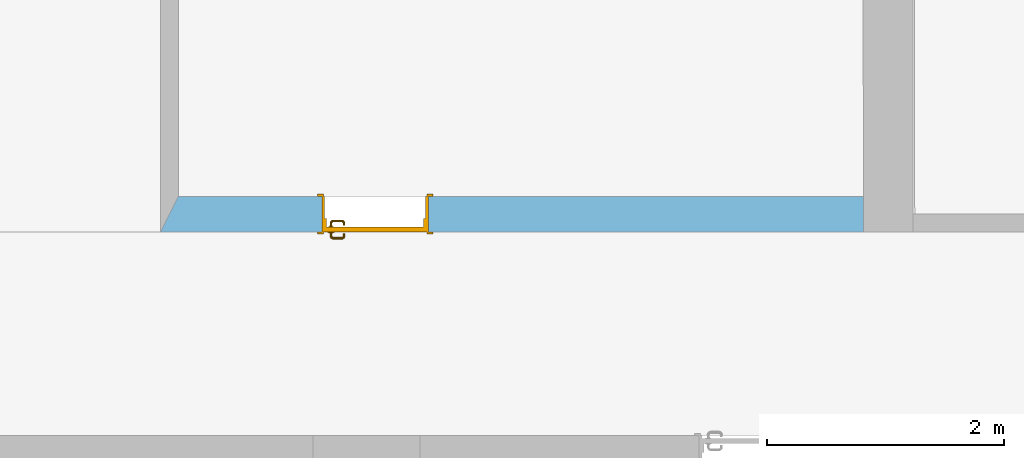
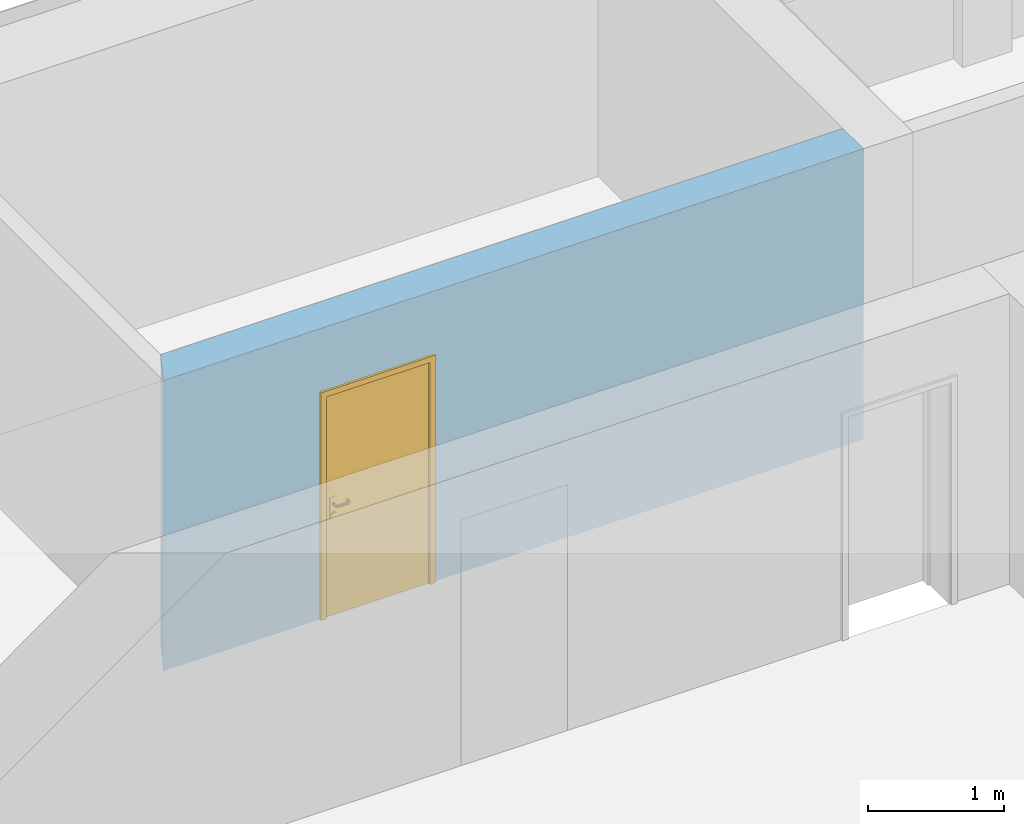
# One storey, part 56 of 127: 1 door, 2 openings, plus 1 element that does not belong to this part.
"""IFC2X3 building model written with IfcOpenShell, lengths in millimetres."""

import ifcopenshell
import ifcopenshell.guid

model = None  # the IFC model being written
_history = None  # IfcOwnerHistory: only IFC2X3 demands one
_inside = {}  # id of a spatial element -> (the spatial element, [elements in it])
_under = {}  # id of a project, library or spatial element -> (it, [spatial elements below it])
_declared = {}  # id of a project -> (the project, [libraries it declares])
_typed = {}  # id of a type object -> (the type object, [elements of that type])
_made_of = {}  # id of a material, layer set ... -> (it, [elements and type objects made of it])


def new_model(schema):
    """Start an empty IFC model of exactly this schema.

    Asked for "IFC4X3", IfcOpenShell would pick the latest addendum, in which some entities
    have other attributes; the version numbers below select the first issue.
    IFC2X3 requires an IfcOwnerHistory on every rooted entity: one is made here for all.
    """
    global model, _history
    if schema == "IFC4X3":
        model = ifcopenshell.file(schema_version=(4, 3, 0, 0))
    else:
        model = ifcopenshell.file(schema=schema)
    _inside.clear()
    _under.clear()
    _declared.clear()
    _typed.clear()
    _made_of.clear()
    _history = None
    if model.schema == "IFC2X3":
        org = make("IfcOrganization", Name="unknown")
        user = make(
            "IfcPersonAndOrganization",
            ThePerson=make("IfcPerson", FamilyName="unknown"),
            TheOrganization=org,
        )
        app = make(
            "IfcApplication",
            ApplicationDeveloper=org,
            Version="unknown",
            ApplicationFullName="unknown",
            ApplicationIdentifier="unknown",
        )
        _history = make(
            "IfcOwnerHistory",
            OwningUser=user,
            OwningApplication=app,
            ChangeAction="ADDED",
            CreationDate=0,
        )
    return model


def make(cls, **values):
    """One entity of the class cls with the attributes given. An attribute that is None is left unset."""
    return model.create_entity(
        cls, **{name: value for name, value in values.items() if value is not None}
    )


def entity(cls, *values):
    """Any entity or typed value of the class cls, its attributes in the order of the schema. None: left unset."""
    e = model.create_entity(cls)
    for i, value in enumerate(values):
        if value is not None:
            e[i] = value
    return e


def rooted(cls, **values):
    """An entity with a GlobalId (a new one), such as an element, a storey or a relation."""
    return make(cls, GlobalId=ifcopenshell.guid.new(), OwnerHistory=_history, **values)


def si_unit(unit_type, name, prefix=None):
    """IfcSIUnit, for example si_unit("LENGTHUNIT", "METRE", prefix="MILLI")."""
    return make("IfcSIUnit", UnitType=unit_type, Prefix=prefix, Name=name)


def converted_unit(unit_type, name, factor, base, dimensions=None, offset=None):
    """IfcConversionBasedUnit, such as the inch: factor (a typed value) times the base unit."""
    return make(
        "IfcConversionBasedUnit"
        if offset is None
        else "IfcConversionBasedUnitWithOffset",
        ConversionOffset=offset,
        Dimensions=None
        if dimensions is None
        else entity("IfcDimensionalExponents", *dimensions),
        UnitType=unit_type,
        Name=name,
        ConversionFactor=make(
            "IfcMeasureWithUnit", ValueComponent=factor, UnitComponent=base
        ),
    )


def derived_unit(unit_type, elements):
    """IfcDerivedUnit: a product of units, each with its exponent."""
    return make(
        "IfcDerivedUnit",
        Elements=[
            make("IfcDerivedUnitElement", Unit=unit, Exponent=power)
            for unit, power in elements
        ],
        UnitType=unit_type,
    )


def money_unit(currency):
    """IfcMonetaryUnit."""
    return make("IfcMonetaryUnit", Currency=currency)


def assignment(units):
    """IfcUnitAssignment: the units of a project."""
    return None if units is None else make("IfcUnitAssignment", Units=units)


def point(xyz):
    """IfcCartesianPoint."""
    return None if xyz is None else make("IfcCartesianPoint", Coordinates=xyz)


def direction(xyz):
    """IfcDirection."""
    return None if xyz is None else make("IfcDirection", DirectionRatios=xyz)


def frame(location, z_axis=None, x_axis=None):
    """IfcAxis2Placement3D, a coordinate frame: its origin and axes. An axis left out is left unset."""
    return make(
        "IfcAxis2Placement3D",
        Location=point(location),
        Axis=direction(z_axis),
        RefDirection=direction(x_axis),
    )


def frame_2d(location, x_axis=None):
    """IfcAxis2Placement2D, a coordinate frame in the plane: its origin and x axis."""
    return make(
        "IfcAxis2Placement2D", Location=point(location), RefDirection=direction(x_axis)
    )


def origin_with_axes():
    """The frame at (0, 0, 0) with the z axis (0, 0, 1) and the x axis (1, 0, 0) written out."""
    return frame((0.0, 0.0, 0.0), z_axis=(0.0, 0.0, 1.0), x_axis=(1.0, 0.0, 0.0))


def origin_2d_with_axis():
    """The frame at (0, 0) in the plane with the x axis (1, 0) written out."""
    return frame_2d((0.0, 0.0), x_axis=(1.0, 0.0))


def place(relative_to, where):
    """IfcLocalPlacement: puts the frame where relative to a parent placement (None: the world)."""
    return make(
        "IfcLocalPlacement", PlacementRelTo=relative_to, RelativePlacement=where
    )


def context(
    kind, dimensions, precision=None, world=None, true_north=None, identifier=None
):
    """IfcGeometricRepresentationContext, for example the 3D "Model" context."""
    return make(
        "IfcGeometricRepresentationContext",
        ContextIdentifier=identifier,
        ContextType=kind,
        CoordinateSpaceDimension=dimensions,
        Precision=precision,
        WorldCoordinateSystem=world,
        TrueNorth=true_north,
    )


def subcontext(parent, identifier, kind, view, scale=None):
    """IfcGeometricRepresentationSubContext, for example "Body" below "Model"."""
    return make(
        "IfcGeometricRepresentationSubContext",
        ContextIdentifier=identifier,
        ContextType=kind,
        ParentContext=parent,
        TargetScale=scale,
        TargetView=view,
    )


def project(units=None, contexts=None):
    """IfcProject with its units and contexts."""
    return rooted(
        "IfcProject",
        Name="project",
        RepresentationContexts=contexts,
        UnitsInContext=assignment(units),
    )


def spatial(cls, under=None, at=None, **own):
    """A site, building, storey or space (cls), placed at a placement, below another one or the project."""
    s = rooted(cls, ObjectPlacement=at, **own)
    if under is not None:
        _under.setdefault(under.id(), (under, []))[1].append(s)
    return s


def polyline(points):
    """IfcPolyline through the points."""
    return make("IfcPolyline", Points=[point(p) for p in points])


def profile(cls, at=None, kind="AREA", **sizes):
    """A parametric profile (cls). Its sizes go by their IFC names, for example OverallWidth=200.0."""
    return make(cls, ProfileType=kind, Position=at, **sizes)


def rectangle(**sizes):
    """IfcRectangleProfileDef."""
    return profile("IfcRectangleProfileDef", **sizes)


def outline(outer, holes=None, kind="AREA"):
    """IfcArbitraryClosedProfileDef: a profile drawn as a closed curve; with holes, ...WithVoids."""
    if holes is None:
        return make("IfcArbitraryClosedProfileDef", ProfileType=kind, OuterCurve=outer)
    return make(
        "IfcArbitraryProfileDefWithVoids",
        ProfileType=kind,
        OuterCurve=outer,
        InnerCurves=holes,
    )


def extrude(swept, where, along, depth):
    """IfcExtrudedAreaSolid: the profile swept, set in the frame where, extruded along a direction by depth."""
    return make(
        "IfcExtrudedAreaSolid",
        SweptArea=swept,
        Position=where,
        ExtrudedDirection=direction(along),
        Depth=depth,
    )


def faces_of(points, faces, orient=None, outer=None):
    """IfcFace entities. A face is a list of loops; a loop is a list of indices into points, from 0.

    orient and outer hold one flag for each loop. By default every Orientation is true, the
    first loop of a face is its IfcFaceOuterBound and the others are IfcFaceBound.
    """
    made = []
    for i, loops in enumerate(faces):
        bounds = []
        for j, loop in enumerate(loops):
            is_outer = j == 0 if outer is None else outer[i][j]
            bounds.append(
                make(
                    "IfcFaceOuterBound" if is_outer else "IfcFaceBound",
                    Bound=make("IfcPolyLoop", Polygon=[points[k] for k in loop]),
                    Orientation=True if orient is None else orient[i][j],
                )
            )
        made.append(make("IfcFace", Bounds=bounds))
    return made


def open_shell(faces, orient=None, outer=None):
    """The faces of one IfcOpenShell. surface_model builds it on its shared points."""
    return ("IfcOpenShell", faces, orient, outer)


def faceted_brep(points, faces, orient=None, outer=None, voids=None):
    """IfcFacetedBrep: a solid bounded by flat faces; with voids (closed shells), ...WithVoids."""
    shared = [point(p) for p in points]
    hull = make("IfcClosedShell", CfsFaces=faces_of(shared, faces, orient, outer))
    if voids is None:
        return make("IfcFacetedBrep", Outer=hull)
    return make(
        "IfcFacetedBrepWithVoids",
        Outer=hull,
        Voids=[
            make(cls, CfsFaces=faces_of(shared, fs, o, b)) for cls, fs, o, b in voids
        ],
    )


def surface_model(cls, points, shells):
    """IfcFaceBasedSurfaceModel or IfcShellBasedSurfaceModel (cls): surfaces that need not close."""
    shared = [point(p) for p in points]
    made = [make(c, CfsFaces=faces_of(shared, fs, o, b)) for c, fs, o, b in shells]
    if cls == "IfcFaceBasedSurfaceModel":
        return make(cls, FbsmFaces=made)
    return make(cls, SbsmBoundary=made)


def shape(context_of_items, identifier, shape_type, items):
    """IfcShapeRepresentation: the items that make up one representation, for example the "Body"."""
    return make(
        "IfcShapeRepresentation",
        ContextOfItems=context_of_items,
        RepresentationIdentifier=identifier,
        RepresentationType=shape_type,
        Items=items,
    )


def material(Name=None, Category=None):
    """IfcMaterial."""
    return make("IfcMaterial", Name=Name, Category=Category)


def layer(
    of_material, thickness, ventilated=None, Name=None, Category=None, Priority=None
):
    """IfcMaterialLayer: one layer of a wall or slab, of a material (None: an air gap)."""
    return make(
        "IfcMaterialLayer",
        Material=of_material,
        LayerThickness=thickness,
        IsVentilated=ventilated,
        Name=Name,
        Category=Category,
        Priority=Priority,
    )


def layer_set(layers, Name=None):
    """IfcMaterialLayerSet."""
    return make("IfcMaterialLayerSet", MaterialLayers=layers, LayerSetName=Name)


def layer_usage(for_layer_set, set_direction, sense, offset, extent=None):
    """IfcMaterialLayerSetUsage: how a layer set lies in its element."""
    return make(
        "IfcMaterialLayerSetUsage",
        ForLayerSet=for_layer_set,
        LayerSetDirection=set_direction,
        DirectionSense=sense,
        OffsetFromReferenceLine=offset,
        ReferenceExtent=extent,
    )


def made_of(thing, what):
    """Note that an element or type object is made of a material, layer set ...; save() writes the relation."""
    if what is not None:
        _made_of.setdefault(what.id(), (what, []))[1].append(thing)
    return thing


def type_object(cls, material=None, **own):
    """A type object (cls), such as IfcWallType, which elements share."""
    return made_of(rooted(cls, **own), material)


def element(
    cls,
    number,
    at=None,
    inside=None,
    cuts=None,
    type_object=None,
    material=None,
    context=None,
    identifier="Body",
    shape_type=None,
    held_by="IfcProductDefinitionShape",
    body=None,
    shapes=None,
    **own,
):
    """One element of the class cls, such as IfcWall. Its Tag is "e" and its number.

    at: its placement. inside: the storey or other place that contains it. cuts: it is an
    opening in that element (IfcRelVoidsElement). A single representation is given by context,
    identifier, shape_type and body (its items); several are given by shapes. held_by: the class
    of the entity that holds the representations. save() writes the other relations.
    """
    e = rooted(cls, Tag="e%d" % number, ObjectPlacement=at, **own)
    if body is not None:
        shapes = [shape(context, identifier, shape_type, body)]
    if shapes is not None:
        e.Representation = make(held_by, Representations=shapes)
    if inside is not None:
        _inside.setdefault(inside.id(), (inside, []))[1].append(e)
    if cuts is not None:
        rooted(
            "IfcRelVoidsElement", RelatingBuildingElement=cuts, RelatedOpeningElement=e
        )
    if type_object is not None:
        _typed.setdefault(type_object.id(), (type_object, []))[1].append(e)
    return made_of(e, material)


def fill(opening, filler):
    """IfcRelFillsElement: the door or window that sits in an opening."""
    return rooted(
        "IfcRelFillsElement",
        RelatingOpeningElement=opening,
        RelatedBuildingElement=filler,
    )


def aggregate(whole, parts):
    """IfcRelAggregates: a whole, such as a stair, and the parts it consists of."""
    return rooted("IfcRelAggregates", RelatingObject=whole, RelatedObjects=parts)


def save(model, path):
    """Write the relations noted so far, then the file.

    IfcRelAggregates (storeys below a building ...), IfcRelContainedInSpatialStructure (elements
    in a storey), IfcRelDefinesByType, IfcRelAssociatesMaterial and IfcRelDeclares: one each for
    every whole, place, type object, material and project.
    """
    for whole, parts in _under.values():
        aggregate(whole, parts)
    for where, things in _inside.values():
        rooted(
            "IfcRelContainedInSpatialStructure",
            RelatedElements=things,
            RelatingStructure=where,
        )
    for kind, things in _typed.values():
        rooted("IfcRelDefinesByType", RelatedObjects=things, RelatingType=kind)
    for what, things in _made_of.values():
        rooted("IfcRelAssociatesMaterial", RelatedObjects=things, RelatingMaterial=what)
    for by, libraries in _declared.values():
        rooted("IfcRelDeclares", RelatingContext=by, RelatedDefinitions=libraries)
    model.write(path)


model = new_model("IFC2X3")

# Units and contexts
model_context = context("Model", 3, precision=1e-05, world=origin_with_axes(), true_north=direction((0.0, 1.0)))
body_context = subcontext(model_context, "Body", "Model", "MODEL_VIEW")
ifc_project = project(units=[si_unit("LENGTHUNIT", "METRE", prefix="MILLI"), si_unit("AREAUNIT", "SQUARE_METRE"), si_unit("VOLUMEUNIT", "CUBIC_METRE"), converted_unit("PLANEANGLEUNIT", "DEGREE", entity("IfcPlaneAngleMeasure", 0.0174532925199), si_unit("PLANEANGLEUNIT", "RADIAN"), dimensions=[0, 0, 0, 0, 0, 0, 0]), si_unit("SOLIDANGLEUNIT", "STERADIAN"), money_unit("EUR"), converted_unit("TIMEUNIT", "Year", entity("IfcTimeMeasure", 31556926.0), si_unit("TIMEUNIT", "SECOND"), dimensions=[0, 0, 1, 0, 0, 0, 0]), si_unit("MASSUNIT", "GRAM", prefix="KILO"), si_unit("THERMODYNAMICTEMPERATUREUNIT", "DEGREE_CELSIUS"), si_unit("LUMINOUSINTENSITYUNIT", "LUMEN"), si_unit("ENERGYUNIT", "JOULE", prefix="MEGA"), derived_unit("THERMALCONDUCTANCEUNIT", [(si_unit("POWERUNIT", "WATT"), 1), (si_unit("LENGTHUNIT", "METRE"), -1), (si_unit("THERMODYNAMICTEMPERATUREUNIT", "KELVIN"), -1)]), derived_unit("SPECIFICHEATCAPACITYUNIT", [(si_unit("ENERGYUNIT", "JOULE"), 1), (si_unit("MASSUNIT", "GRAM", prefix="KILO"), -1), (si_unit("THERMODYNAMICTEMPERATUREUNIT", "KELVIN"), -1)]), derived_unit("MASSDENSITYUNIT", [(si_unit("MASSUNIT", "GRAM", prefix="KILO"), 1), (si_unit("VOLUMEUNIT", "CUBIC_METRE"), -1)])], contexts=[model_context])

# Site, building, storey
site_placement = place(None, origin_with_axes())
site = spatial("IfcSite", under=ifc_project, at=site_placement, Name="Site", CompositionType="ELEMENT")
building_placement = place(site_placement, origin_with_axes())
building = spatial("IfcBuilding", under=site, at=building_placement, Name="Building", CompositionType="ELEMENT")
storey_placement = place(building_placement, origin_with_axes())
storey = spatial("IfcBuildingStorey", under=building, at=storey_placement, Name="1 KORRUS", CompositionType="ELEMENT", Elevation=0.0)

# Wall, openings, door
ifc_material = material(Name="Kivi -Ol.Olev Konstruktsioon")
ifc_layer = layer(ifc_material, 300.0, ventilated="UNKNOWN")
ifc_layer_set = layer_set([ifc_layer], Name="ol.olev ss 300")
ifc_layer_usage = layer_usage(ifc_layer_set, "AXIS2", "POSITIVE", -300.0)
wall_type = type_object("IfcWallType", Name="SW - 022", PredefinedType="NOTDEFINED")
wall_placement = place(storey_placement, frame((87732.1709145, 42721.226444, 0.0), z_axis=(0.0, 0.0, 1.0), x_axis=(-1.0, 0.0, 0.0)))
wall = element("IfcWallStandardCase", 1, at=wall_placement, inside=storey, type_object=wall_type, material=ifc_layer_usage, Name="ol.olev ss 300", context=body_context, shape_type="SweptSolid", body=[
    extrude(outline(polyline([(0.365352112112, -300.0), (5777.23782502, -300.0), (5927.23782502, 0.0), (4.59364173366e-05, 0.0), (0.365352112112, -300.0)])), origin_with_axes(), (0.0, 0.0, 1.0), 2600.0),
])
opening_1_placement = place(wall_placement, frame((4117.90650266, 0.0, 0.0), z_axis=(0.0, 0.0, 1.0), x_axis=(1.0, 0.0, 0.0)))
opening_1 = element("IfcOpeningElement", 2, at=opening_1_placement, cuts=wall, Name="Siseuks * Door 22", context=body_context, shape_type="SweptSolid", body=[
    extrude(rectangle(XDim=900.0, YDim=2000.0, at=origin_2d_with_axis()), frame((0.0, -300.0, 1000.0), z_axis=(0.0, -1.0, 0.0), x_axis=(-1.0, 0.0, 0.0)), (0.0, 0.0, -1.0), 900.0),
    extrude(rectangle(XDim=974.0, YDim=2037.0, at=origin_2d_with_axis()), frame((0.0, -300.0, 1018.5), z_axis=(0.0, -1.0, 0.0), x_axis=(-1.0, 0.0, 0.0)), (0.0, 0.0, 1.0), 300.0),
    extrude(rectangle(XDim=974.0, YDim=2037.0, at=origin_2d_with_axis()), frame((0.0, 0.0, 1018.5), z_axis=(0.0, 1.0, 0.0), x_axis=(-1.0, 0.0, 0.0)), (0.0, 0.0, 1.0), 300.0),
])
opening_2_placement = place(wall_placement, frame((6904.13265274, 0.0, 0.0), z_axis=(0.0, 0.0, 1.0), x_axis=(1.0, 0.0, 0.0)))
element("IfcOpeningElement", 3, at=opening_2_placement, cuts=wall, Name="Background;  Objekti nimi: Simple Door Opening", context=body_context, shape_type="SweptSolid", body=[
    extrude(rectangle(XDim=1954.37892373, YDim=2100.0, at=origin_2d_with_axis()), frame((0.0, 0.0, 1050.0), z_axis=(0.0, -1.0, 0.0), x_axis=(1.0, 0.0, 0.0)), (0.0, 0.0, -1.0), 300.0),
    extrude(rectangle(XDim=1954.37892373, YDim=2100.0, at=origin_2d_with_axis()), frame((0.0, 0.0, 1050.0), z_axis=(0.0, 1.0, 0.0), x_axis=(1.0, 0.0, 0.0)), (0.0, 0.0, -1.0), 300.0),
])
door_style = type_object("IfcDoorStyle", Name="SU-B130   900×2\xa0000", ConstructionType="NOTDEFINED", OperationType="SINGLE_SWING_LEFT", ParameterTakesPrecedence=False, Sizeable=False)
door_placement = place(opening_1_placement, frame((-450.0, 0.0, 0.0), z_axis=(0.0, 0.0, 1.0), x_axis=(1.0, 0.0, 0.0)))
door = element("IfcDoor", 4, at=door_placement, inside=storey, type_object=door_style, Name="Siseuks * Door 22", OverallHeight=2000.0, OverallWidth=900.0, context=body_context, shape_type="SurfaceModel", body=[
    faceted_brep([(900.0, -115.0, 0.0), (900.0, -300.0, 0.0), (875.0, -300.0, 0.0), (875.0, -115.0, 0.0), (900.0, -115.0, 2000.0), (900.0, -300.0, 2000.0), (875.0, -300.0, 1975.0), (875.0, -115.0, 1975.0)], [[[0, 1, 2, 3]], [[4, 5, 1, 0]], [[1, 5, 6, 2]], [[3, 2, 6, 7]], [[0, 3, 7, 4]], [[7, 6, 5, 4]]]),
    faceted_brep([(0.0, -115.0, 2000.0), (0.0, -300.0, 2000.0), (25.0000000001, -300.0, 1975.0), (25.0000000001, -115.0, 1975.0), (0.0, -115.0, 0.0), (0.0, -300.0, 0.0), (25.0000000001, -300.0, 0.0), (25.0000000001, -115.0, 0.0)], [[[0, 1, 2, 3]], [[4, 5, 1, 0]], [[1, 5, 6, 2]], [[3, 2, 6, 7]], [[0, 3, 7, 4]], [[7, 6, 5, 4]]]),
    faceted_brep([(875.0, -115.0, 1975.0), (875.0, -300.0, 1975.0), (25.0000000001, -300.0, 1975.0), (25.0000000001, -115.0, 1975.0), (900.0, -115.0, 2000.0), (900.0, -300.0, 2000.0), (0.0, -300.0, 2000.0), (0.0, -115.0, 2000.0)], [[[0, 1, 2, 3]], [[4, 5, 1, 0]], [[1, 5, 6, 2]], [[3, 2, 6, 7]], [[0, 3, 7, 4]], [[7, 6, 5, 4]]]),
    faceted_brep([(937.0, -319.0, 0.0), (887.0, -319.0, 0.0), (887.0, -300.0, 0.0), (937.0, -300.0, 0.0), (937.0, -319.0, 2037.0), (887.0, -319.0, 1987.0), (887.0, -300.0, 1987.0), (937.0, -300.0, 2037.0)], [[[0, 1, 2, 3]], [[0, 4, 5, 1]], [[1, 5, 6, 2]], [[3, 2, 6, 7]], [[4, 0, 3, 7]], [[5, 4, 7, 6]]]),
    faceted_brep([(-36.9999999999, -319.0, 2037.0), (13.0, -319.0, 1987.0), (13.0, -300.0, 1987.0), (-36.9999999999, -300.0, 2037.0), (-36.9999999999, -319.0, 0.0), (13.0, -319.0, 0.0), (13.0, -300.0, 0.0), (-36.9999999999, -300.0, 0.0)], [[[0, 1, 2, 3]], [[0, 4, 5, 1]], [[1, 5, 6, 2]], [[3, 2, 6, 7]], [[4, 0, 3, 7]], [[5, 4, 7, 6]]]),
    faceted_brep([(937.0, -319.0, 2037.0), (887.0, -319.0, 1987.0), (887.0, -300.0, 1987.0), (937.0, -300.0, 2037.0), (-36.9999999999, -319.0, 2037.0), (13.0, -319.0, 1987.0), (13.0, -300.0, 1987.0), (-36.9999999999, -300.0, 2037.0)], [[[0, 1, 2, 3]], [[0, 4, 5, 1]], [[1, 5, 6, 2]], [[3, 2, 6, 7]], [[4, 0, 3, 7]], [[5, 4, 7, 6]]]),
    faceted_brep([(937.0, 19.0000000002, 0.0), (937.0, 0.0, 0.0), (887.0, 0.0, 0.0), (887.0, 19.0000000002, 0.0), (937.0, 19.0000000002, 2037.0), (937.0, 0.0, 2037.0), (887.0, 0.0, 1987.0), (887.0, 19.0000000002, 1987.0)], [[[0, 1, 2, 3]], [[4, 5, 1, 0]], [[1, 5, 6, 2]], [[3, 2, 6, 7]], [[0, 3, 7, 4]], [[7, 6, 5, 4]]]),
    faceted_brep([(-36.9999999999, 19.0000000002, 2037.0), (-36.9999999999, 0.0, 2037.0), (13.0, 0.0, 1987.0), (13.0, 19.0000000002, 1987.0), (-36.9999999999, 19.0000000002, 0.0), (-36.9999999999, 0.0, 0.0), (13.0, 0.0, 0.0), (13.0, 19.0000000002, 0.0)], [[[0, 1, 2, 3]], [[4, 5, 1, 0]], [[1, 5, 6, 2]], [[3, 2, 6, 7]], [[0, 3, 7, 4]], [[7, 6, 5, 4]]]),
    faceted_brep([(937.0, 19.0000000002, 2037.0), (937.0, 0.0, 2037.0), (887.0, 0.0, 1987.0), (887.0, 19.0000000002, 1987.0), (-36.9999999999, 19.0000000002, 2037.0), (-36.9999999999, 0.0, 2037.0), (13.0, 0.0, 1987.0), (13.0, 19.0000000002, 1987.0)], [[[0, 1, 2, 3]], [[4, 5, 1, 0]], [[1, 5, 6, 2]], [[3, 2, 6, 7]], [[0, 3, 7, 4]], [[7, 6, 5, 4]]]),
    faceted_brep([(860.0, -40.0, 0.0), (860.0, -115.0, 0.0), (860.0, -115.0, 1960.0), (860.0, -40.0, 1960.0), (872.0, -40.0, 0.0), (872.0, 0.0, 0.0), (900.0, 0.0, 0.0), (900.0, -115.0, 0.0), (900.0, -115.0, 1960.0), (872.0, -40.0, 1960.0), (900.0, 0.0, 1960.0), (872.0, 0.0, 1960.0)], [[[0, 1, 2, 3]], [[4, 5, 6, 7, 1, 0]], [[1, 7, 8, 2]], [[9, 3, 2, 8, 10, 11]], [[9, 4, 0, 3]], [[11, 5, 4, 9]], [[11, 10, 6, 5]], [[6, 10, 8, 7]]]),
    faceted_brep([(28.0, -40.0, 1960.0), (28.0, 0.0, 1960.0), (0.0, 0.0, 1960.0), (0.0, -115.0, 1960.0), (40.0000000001, -115.0, 1960.0), (40.0000000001, -40.0, 1960.0), (28.0, -40.0, 0.0), (28.0, 0.0, 0.0), (0.0, 0.0, 0.0), (0.0, -115.0, 0.0), (40.0000000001, -115.0, 0.0), (40.0000000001, -40.0, 0.0)], [[[0, 1, 2, 3, 4, 5]], [[0, 6, 7, 1]], [[7, 8, 2, 1]], [[2, 8, 9, 3]], [[3, 9, 10, 4]], [[5, 4, 10, 11]], [[5, 11, 6, 0]], [[6, 11, 10, 9, 8, 7]]]),
    faceted_brep([(872.0, 0.0, 1972.0), (28.0, 0.0, 1972.0), (28.0, 0.0, 1960.0), (0.0, 0.0, 1960.0), (0.0, 0.0, 2000.0), (900.0, 0.0, 2000.0), (900.0, 0.0, 1960.0), (872.0, 0.0, 1960.0), (872.0, -40.0, 1972.0), (28.0, -40.0, 1972.0), (28.0, -40.0, 1960.0), (40.0000000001, -40.0, 1960.0), (40.0000000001, -115.0, 1960.0), (0.0, -115.0, 1960.0), (0.0, -115.0, 2000.0), (900.0, -115.0, 2000.0), (900.0, -115.0, 1960.0), (872.0, -40.0, 1960.0), (860.0, -115.0, 1960.0), (860.0, -40.0, 1960.0)], [[[0, 1, 2, 3, 4, 5, 6, 7]], [[0, 8, 9, 1]], [[1, 9, 10, 2]], [[10, 11, 12, 13, 3, 2]], [[4, 3, 13, 14]], [[5, 4, 14, 15]], [[6, 5, 15, 16]], [[17, 7, 6, 16, 18, 19]], [[7, 17, 8, 0]], [[10, 9, 8, 17, 19, 11]], [[19, 18, 12, 11]], [[12, 18, 16, 15, 14, 13]]]),
    faceted_brep([(850.5, -40.0, 1060.0), (793.5, -40.0, 1060.0), (793.5, -42.9999999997, 1060.0), (850.5, -42.9999999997, 1060.0), (850.5, -40.0, 870.0), (793.5, -40.0, 870.0), (793.5, -42.9999999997, 870.0), (850.5, -42.9999999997, 870.0)], [[[0, 1, 2, 3]], [[0, 4, 5, 1]], [[1, 5, 6, 2]], [[3, 2, 6, 7]], [[4, 0, 3, 7]], [[5, 4, 7, 6]]]),
    surface_model("IfcShellBasedSurfaceModel", [(812.0, -52.9999999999, 1000.0), (814.928932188, -52.9999999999, 992.928932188), (814.928932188, -72.3035606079, 992.928932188), (812.0, -72.0150859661, 1000.0), (822.0, -52.9999999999, 990.0), (822.0, -73.0000000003, 990.0), (813.816790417, -77.8946748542, 992.928932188), (811.057796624, -76.7518622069, 1000.0), (814.928932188, -52.9999999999, 1007.07106781), (814.928932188, -72.3035606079, 1007.07106781), (829.071067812, -52.9999999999, 992.928932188), (829.071067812, -73.6964393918, 992.928932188), (820.47759065, -80.6536686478, 990.0), (811.044179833, -82.0441798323, 992.928932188), (808.932537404, -79.9325374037, 1000.0), (813.816790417, -77.8946748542, 1007.07106781), (822.0, -52.9999999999, 1010.0), (822.0, -73.0000000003, 1010.0), (832.0, -52.9999999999, 1000.0), (832.0, -73.9849140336, 1000.0), (827.138390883, -83.4126624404, 992.928932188), (816.142135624, -87.1421356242, 990.0), (806.894674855, -84.8167904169, 992.928932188), (805.751862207, -82.0577966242, 1000.0), (811.044179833, -82.0441798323, 1007.07106781), (820.47759065, -80.6536686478, 1010.0), (829.071067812, -52.9999999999, 1007.07106781), (829.071067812, -73.6964393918, 1007.07106781), (829.897384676, -84.5554750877, 1000.0), (821.240091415, -92.2400914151, 992.928932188), (809.653668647, -91.4775906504, 990.0), (801.303560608, -85.9289321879, 992.928932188), (801.015085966, -82.9999999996, 1000.0), (806.894674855, -84.8167904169, 1007.07106781), (816.142135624, -87.1421356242, 1010.0), (827.138390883, -83.4126624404, 1007.07106781), (823.351733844, -94.3517338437, 1000.0), (812.41266244, -98.1383908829, 992.928932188), (802.0, -92.9999999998, 990.0), (732.696439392, -85.9289321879, 992.928932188), (732.984914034, -82.9999999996, 1000.0), (801.303560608, -85.9289321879, 1007.07106781), (809.653668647, -91.4775906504, 1010.0), (821.240091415, -92.2400914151, 1007.07106781), (813.555475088, -100.897384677, 1000.0), (802.696439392, -100.071067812, 992.928932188), (732.0, -92.9999999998, 990.0), (727.105325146, -84.8167904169, 992.928932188), (728.248137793, -82.0577966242, 1000.0), (732.696439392, -85.9289321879, 1007.07106781), (802.0, -92.9999999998, 1010.0), (812.41266244, -98.1383908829, 1007.07106781), (802.984914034, -103.0, 1000.0), (731.303560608, -100.071067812, 992.928932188), (724.346331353, -91.4775906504, 990.0), (722.955820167, -82.0441798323, 992.928932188), (725.067462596, -79.9325374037, 1000.0), (727.105325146, -84.8167904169, 1007.07106781), (732.0, -92.9999999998, 1010.0), (802.696439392, -100.071067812, 1007.07106781), (731.015085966, -103.0, 1000.0), (721.58733756, -98.1383908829, 992.928932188), (717.857864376, -87.1421356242, 990.0), (720.183209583, -77.8946748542, 992.928932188), (722.942203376, -76.7518622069, 1000.0), (722.955820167, -82.0441798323, 1007.07106781), (724.346331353, -91.4775906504, 1010.0), (731.303560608, -100.071067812, 1007.07106781), (720.444524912, -100.897384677, 1000.0), (712.759908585, -92.2400914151, 992.928932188), (713.52240935, -80.6536686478, 990.0), (719.071067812, -72.3035606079, 992.928932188), (722.0, -72.0150859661, 1000.0), (720.183209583, -77.8946748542, 1007.07106781), (717.857864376, -87.1421356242, 1010.0), (721.58733756, -98.1383908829, 1007.07106781), (710.648266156, -94.3517338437, 1000.0), (706.861609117, -83.4126624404, 992.928932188), (712.0, -73.0000000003, 990.0), (719.071067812, -52.9999999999, 992.928932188), (722.0, -52.9999999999, 1000.0), (719.071067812, -72.3035606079, 1007.07106781), (713.52240935, -80.6536686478, 1010.0), (712.759908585, -92.2400914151, 1007.07106781), (704.102615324, -84.5554750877, 1000.0), (704.928932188, -73.6964393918, 992.928932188), (712.0, -52.9999999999, 990.0), (704.928932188, -52.9999999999, 992.928932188), (702.0, -52.9999999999, 1000.0), (704.928932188, -52.9999999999, 1007.07106781), (712.0, -52.9999999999, 1010.0), (719.071067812, -52.9999999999, 1007.07106781), (712.0, -73.0000000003, 1010.0), (706.861609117, -83.4126624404, 1007.07106781), (702.0, -73.9849140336, 1000.0), (704.928932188, -73.6964393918, 1007.07106781)], [open_shell([[[0, 1, 2, 3]], [[1, 4, 5, 2]], [[3, 2, 6, 7]], [[8, 0, 3, 9]], [[4, 10, 11, 5]], [[2, 5, 12, 6]], [[7, 6, 13, 14]], [[9, 3, 7, 15]], [[16, 8, 9, 17]], [[10, 18, 19, 11]], [[5, 11, 20, 12]], [[6, 12, 21, 13]], [[14, 13, 22, 23]], [[15, 7, 14, 24]], [[17, 9, 15, 25]], [[26, 16, 17, 27]], [[18, 26, 27, 19]], [[11, 19, 28, 20]], [[12, 20, 29, 21]], [[13, 21, 30, 22]], [[23, 22, 31, 32]], [[24, 14, 23, 33]], [[25, 15, 24, 34]], [[27, 17, 25, 35]], [[19, 27, 35, 28]], [[20, 28, 36, 29]], [[21, 29, 37, 30]], [[22, 30, 38, 31]], [[32, 31, 39, 40]], [[33, 23, 32, 41]], [[34, 24, 33, 42]], [[35, 25, 34, 43]], [[28, 35, 43, 36]], [[29, 36, 44, 37]], [[30, 37, 45, 38]], [[31, 38, 46, 39]], [[40, 39, 47, 48]], [[41, 32, 40, 49]], [[42, 33, 41, 50]], [[43, 34, 42, 51]], [[36, 43, 51, 44]], [[37, 44, 52, 45]], [[38, 45, 53, 46]], [[39, 46, 54, 47]], [[48, 47, 55, 56]], [[49, 40, 48, 57]], [[50, 41, 49, 58]], [[51, 42, 50, 59]], [[44, 51, 59, 52]], [[45, 52, 60, 53]], [[46, 53, 61, 54]], [[47, 54, 62, 55]], [[56, 55, 63, 64]], [[57, 48, 56, 65]], [[58, 49, 57, 66]], [[59, 50, 58, 67]], [[52, 59, 67, 60]], [[53, 60, 68, 61]], [[54, 61, 69, 62]], [[55, 62, 70, 63]], [[64, 63, 71, 72]], [[65, 56, 64, 73]], [[66, 57, 65, 74]], [[67, 58, 66, 75]], [[60, 67, 75, 68]], [[61, 68, 76, 69]], [[62, 69, 77, 70]], [[63, 70, 78, 71]], [[72, 71, 79, 80]], [[73, 64, 72, 81]], [[74, 65, 73, 82]], [[75, 66, 74, 83]], [[68, 75, 83, 76]], [[69, 76, 84, 77]], [[70, 77, 85, 78]], [[71, 78, 86, 79]], [[80, 79, 86, 87, 88, 89, 90, 91]], [[81, 72, 80, 91]], [[82, 73, 81, 92]], [[83, 74, 82, 93]], [[76, 83, 93, 84]], [[77, 84, 94, 85]], [[78, 85, 87, 86]], [[85, 94, 88, 87]], [[94, 95, 89, 88]], [[95, 92, 90, 89]], [[92, 81, 91, 90]], [[93, 82, 92, 95]], [[84, 93, 95, 94]]])]),
    faceted_brep([(811.607695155, -52.9999999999, 994.0), (810.0, -52.9999999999, 1000.0), (809.0, -42.9999999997, 1000.0), (810.741669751, -42.9999999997, 993.5), (816.0, -52.9999999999, 989.607695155), (822.0, -52.9999999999, 988.0), (828.0, -52.9999999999, 989.607695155), (832.392304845, -52.9999999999, 994.0), (834.0, -52.9999999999, 1000.0), (832.392304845, -52.9999999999, 1006.0), (828.0, -52.9999999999, 1010.39230485), (822.0, -52.9999999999, 1012.0), (816.0, -52.9999999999, 1010.39230485), (811.607695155, -52.9999999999, 1006.0), (810.741669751, -42.9999999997, 1006.5), (815.5, -42.9999999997, 1011.25833025), (822.0, -42.9999999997, 1013.0), (828.5, -42.9999999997, 1011.25833025), (833.258330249, -42.9999999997, 1006.5), (835.0, -42.9999999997, 1000.0), (833.258330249, -42.9999999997, 993.5), (828.5, -42.9999999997, 988.741669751), (822.0, -42.9999999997, 987.0), (815.5, -42.9999999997, 988.741669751)], [[[0, 1, 2, 3]], [[1, 0, 4, 5, 6, 7, 8, 9, 10, 11, 12, 13]], [[1, 13, 14, 2]], [[2, 14, 15, 16, 17, 18, 19, 20, 21, 22, 23, 3]], [[4, 0, 3, 23]], [[5, 4, 23, 22]], [[6, 5, 22, 21]], [[7, 6, 21, 20]], [[8, 7, 20, 19]], [[9, 8, 19, 18]], [[10, 9, 18, 17]], [[11, 10, 17, 16]], [[12, 11, 16, 15]], [[13, 12, 15, 14]]]),
    faceted_brep([(804.679491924, -46.9999999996, 895.0), (802.0, -46.9999999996, 905.0), (800.0, -42.9999999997, 905.0), (802.947441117, -42.9999999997, 894.0), (812.0, -46.9999999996, 887.679491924), (822.0, -46.9999999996, 885.0), (832.0, -46.9999999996, 887.679491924), (839.320508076, -46.9999999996, 895.0), (842.0, -46.9999999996, 905.0), (839.320508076, -46.9999999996, 915.0), (832.0, -46.9999999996, 922.320508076), (822.0, -46.9999999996, 925.0), (812.0, -46.9999999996, 922.320508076), (804.679491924, -46.9999999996, 915.0), (802.947441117, -42.9999999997, 916.0), (811.0, -42.9999999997, 924.052558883), (822.0, -42.9999999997, 927.0), (833.0, -42.9999999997, 924.052558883), (841.052558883, -42.9999999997, 916.0), (844.0, -42.9999999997, 905.0), (841.052558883, -42.9999999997, 894.0), (833.0, -42.9999999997, 885.947441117), (822.0, -42.9999999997, 883.0), (811.0, -42.9999999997, 885.947441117)], [[[0, 1, 2, 3]], [[1, 0, 4, 5, 6, 7, 8, 9, 10, 11, 12, 13]], [[1, 13, 14, 2]], [[2, 14, 15, 16, 17, 18, 19, 20, 21, 22, 23, 3]], [[4, 0, 3, 23]], [[5, 4, 23, 22]], [[6, 5, 22, 21]], [[7, 6, 21, 20]], [[8, 7, 20, 19]], [[9, 8, 19, 18]], [[10, 9, 18, 17]], [[11, 10, 17, 16]], [[12, 11, 16, 15]], [[13, 12, 15, 14]]]),
    faceted_brep([(817.050252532, -49.0, 909.050252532), (815.0, -49.0, 914.0), (814.0, -46.9999999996, 914.0), (816.343145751, -46.9999999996, 908.343145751), (822.0, -49.0, 907.0), (826.949747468, -49.0, 909.050252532), (829.0, -49.0, 914.0), (826.949747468, -49.0, 918.949747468), (822.0, -49.0, 921.0), (817.050252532, -49.0, 918.949747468), (816.343145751, -46.9999999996, 919.656854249), (822.0, -46.9999999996, 922.0), (827.65685425, -46.9999999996, 919.656854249), (830.0, -46.9999999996, 914.0), (827.65685425, -46.9999999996, 908.343145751), (822.0, -46.9999999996, 906.0)], [[[0, 1, 2, 3]], [[1, 0, 4, 5, 6, 7, 8, 9]], [[1, 9, 10, 2]], [[2, 10, 11, 12, 13, 14, 15, 3]], [[4, 0, 3, 15]], [[5, 4, 15, 14]], [[6, 5, 14, 13]], [[7, 6, 13, 12]], [[8, 7, 12, 11]], [[9, 8, 11, 10]]]),
    faceted_brep([(850.5, 0.0, 1060.0), (850.5, 2.9999999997, 1060.0), (793.5, 2.9999999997, 1060.0), (793.5, 0.0, 1060.0), (850.5, 0.0, 870.0), (850.5, 2.9999999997, 870.0), (793.5, 2.9999999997, 870.0), (793.5, 0.0, 870.0)], [[[0, 1, 2, 3]], [[4, 5, 1, 0]], [[1, 5, 6, 2]], [[3, 2, 6, 7]], [[0, 3, 7, 4]], [[7, 6, 5, 4]]]),
    surface_model("IfcShellBasedSurfaceModel", [(812.0, 12.9999999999, 1000.0), (812.0, 32.0150859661, 1000.0), (814.928932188, 32.3035606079, 992.928932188), (814.928932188, 12.9999999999, 992.928932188), (814.928932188, 12.9999999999, 1007.07106781), (814.928932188, 32.3035606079, 1007.07106781), (811.057796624, 36.751862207, 1000.0), (813.816790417, 37.8946748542, 992.928932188), (822.0, 33.0000000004, 990.0), (822.0, 12.9999999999, 990.0), (822.0, 12.9999999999, 1010.0), (822.0, 33.0000000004, 1010.0), (813.816790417, 37.8946748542, 1007.07106781), (808.932537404, 39.9325374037, 1000.0), (811.044179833, 42.0441798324, 992.928932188), (820.47759065, 40.6536686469, 990.0), (829.071067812, 33.6964393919, 992.928932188), (829.071067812, 12.9999999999, 992.928932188), (829.071067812, 12.9999999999, 1007.07106781), (829.071067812, 33.6964393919, 1007.07106781), (820.47759065, 40.6536686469, 1010.0), (811.044179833, 42.0441798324, 1007.07106781), (805.751862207, 42.0577966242, 1000.0), (806.894674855, 44.8167904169, 992.928932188), (816.142135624, 47.1421356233, 990.0), (827.138390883, 43.4126624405, 992.928932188), (832.0, 33.9849140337, 1000.0), (832.0, 12.9999999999, 1000.0), (827.138390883, 43.4126624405, 1007.07106781), (816.142135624, 47.1421356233, 1010.0), (806.894674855, 44.8167904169, 1007.07106781), (801.015085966, 42.9999999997, 1000.0), (801.303560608, 45.928932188, 992.928932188), (809.653668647, 51.4775906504, 990.0), (821.240091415, 52.2400914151, 992.928932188), (829.897384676, 44.5554750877, 1000.0), (821.240091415, 52.2400914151, 1007.07106781), (809.653668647, 51.4775906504, 1010.0), (801.303560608, 45.928932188, 1007.07106781), (732.984914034, 42.9999999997, 1000.0), (732.696439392, 45.928932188, 992.928932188), (802.0, 52.9999999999, 990.0), (812.41266244, 58.138390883, 992.928932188), (823.351733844, 54.3517338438, 1000.0), (812.41266244, 58.138390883, 1007.07106781), (802.0, 52.9999999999, 1010.0), (732.696439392, 45.928932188, 1007.07106781), (728.248137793, 42.0577966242, 1000.0), (727.105325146, 44.8167904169, 992.928932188), (732.0, 52.9999999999, 990.0), (802.696439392, 60.0710678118, 992.928932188), (813.555475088, 60.8973846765, 1000.0), (802.696439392, 60.0710678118, 1007.07106781), (732.0, 52.9999999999, 1010.0), (727.105325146, 44.8167904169, 1007.07106781), (725.067462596, 39.9325374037, 1000.0), (722.955820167, 42.0441798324, 992.928932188), (724.346331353, 51.4775906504, 990.0), (731.303560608, 60.0710678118, 992.928932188), (802.984914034, 63.0000000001, 1000.0), (731.303560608, 60.0710678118, 1007.07106781), (724.346331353, 51.4775906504, 1010.0), (722.955820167, 42.0441798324, 1007.07106781), (722.942203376, 36.751862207, 1000.0), (720.183209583, 37.8946748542, 992.928932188), (717.857864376, 47.1421356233, 990.0), (721.58733756, 58.138390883, 992.928932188), (731.015085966, 63.0000000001, 1000.0), (721.58733756, 58.138390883, 1007.07106781), (717.857864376, 47.1421356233, 1010.0), (720.183209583, 37.8946748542, 1007.07106781), (722.0, 32.0150859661, 1000.0), (719.071067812, 32.3035606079, 992.928932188), (713.52240935, 40.6536686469, 990.0), (712.759908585, 52.2400914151, 992.928932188), (720.444524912, 60.8973846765, 1000.0), (712.759908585, 52.2400914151, 1007.07106781), (713.52240935, 40.6536686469, 1010.0), (719.071067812, 32.3035606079, 1007.07106781), (722.0, 12.9999999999, 1000.0), (719.071067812, 12.9999999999, 992.928932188), (712.0, 33.0000000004, 990.0), (706.861609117, 43.4126624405, 992.928932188), (710.648266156, 54.3517338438, 1000.0), (706.861609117, 43.4126624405, 1007.07106781), (712.0, 33.0000000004, 1010.0), (719.071067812, 12.9999999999, 1007.07106781), (712.0, 12.9999999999, 1010.0), (704.928932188, 12.9999999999, 1007.07106781), (702.0, 12.9999999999, 1000.0), (704.928932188, 12.9999999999, 992.928932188), (712.0, 12.9999999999, 990.0), (704.928932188, 33.6964393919, 992.928932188), (704.102615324, 44.5554750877, 1000.0), (704.928932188, 33.6964393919, 1007.07106781), (702.0, 33.9849140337, 1000.0)], [open_shell([[[0, 1, 2, 3]], [[4, 5, 1, 0]], [[1, 6, 7, 2]], [[3, 2, 8, 9]], [[10, 11, 5, 4]], [[5, 12, 6, 1]], [[6, 13, 14, 7]], [[2, 7, 15, 8]], [[9, 8, 16, 17]], [[18, 19, 11, 10]], [[11, 20, 12, 5]], [[12, 21, 13, 6]], [[13, 22, 23, 14]], [[7, 14, 24, 15]], [[8, 15, 25, 16]], [[17, 16, 26, 27]], [[27, 26, 19, 18]], [[19, 28, 20, 11]], [[20, 29, 21, 12]], [[21, 30, 22, 13]], [[22, 31, 32, 23]], [[14, 23, 33, 24]], [[15, 24, 34, 25]], [[16, 25, 35, 26]], [[26, 35, 28, 19]], [[28, 36, 29, 20]], [[29, 37, 30, 21]], [[30, 38, 31, 22]], [[31, 39, 40, 32]], [[23, 32, 41, 33]], [[24, 33, 42, 34]], [[25, 34, 43, 35]], [[35, 43, 36, 28]], [[36, 44, 37, 29]], [[37, 45, 38, 30]], [[38, 46, 39, 31]], [[39, 47, 48, 40]], [[32, 40, 49, 41]], [[33, 41, 50, 42]], [[34, 42, 51, 43]], [[43, 51, 44, 36]], [[44, 52, 45, 37]], [[45, 53, 46, 38]], [[46, 54, 47, 39]], [[47, 55, 56, 48]], [[40, 48, 57, 49]], [[41, 49, 58, 50]], [[42, 50, 59, 51]], [[51, 59, 52, 44]], [[52, 60, 53, 45]], [[53, 61, 54, 46]], [[54, 62, 55, 47]], [[55, 63, 64, 56]], [[48, 56, 65, 57]], [[49, 57, 66, 58]], [[50, 58, 67, 59]], [[59, 67, 60, 52]], [[60, 68, 61, 53]], [[61, 69, 62, 54]], [[62, 70, 63, 55]], [[63, 71, 72, 64]], [[56, 64, 73, 65]], [[57, 65, 74, 66]], [[58, 66, 75, 67]], [[67, 75, 68, 60]], [[68, 76, 69, 61]], [[69, 77, 70, 62]], [[70, 78, 71, 63]], [[71, 79, 80, 72]], [[64, 72, 81, 73]], [[65, 73, 82, 74]], [[66, 74, 83, 75]], [[75, 83, 76, 68]], [[76, 84, 77, 69]], [[77, 85, 78, 70]], [[78, 86, 79, 71]], [[79, 86, 87, 88, 89, 90, 91, 80]], [[72, 80, 91, 81]], [[73, 81, 92, 82]], [[74, 82, 93, 83]], [[83, 93, 84, 76]], [[84, 94, 85, 77]], [[85, 87, 86, 78]], [[94, 88, 87, 85]], [[95, 89, 88, 94]], [[92, 90, 89, 95]], [[81, 91, 90, 92]], [[82, 92, 95, 93]], [[93, 95, 94, 84]]])]),
    faceted_brep([(811.607695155, 12.9999999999, 994.0), (810.741669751, 2.9999999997, 993.5), (809.0, 2.9999999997, 1000.0), (810.0, 12.9999999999, 1000.0), (816.0, 12.9999999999, 989.607695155), (815.5, 2.9999999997, 988.741669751), (822.0, 2.9999999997, 987.0), (828.5, 2.9999999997, 988.741669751), (833.258330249, 2.9999999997, 993.5), (835.0, 2.9999999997, 1000.0), (833.258330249, 2.9999999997, 1006.5), (828.5, 2.9999999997, 1011.25833025), (822.0, 2.9999999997, 1013.0), (815.5, 2.9999999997, 1011.25833025), (810.741669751, 2.9999999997, 1006.5), (811.607695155, 12.9999999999, 1006.0), (816.0, 12.9999999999, 1010.39230485), (822.0, 12.9999999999, 1012.0), (828.0, 12.9999999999, 1010.39230485), (832.392304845, 12.9999999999, 1006.0), (834.0, 12.9999999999, 1000.0), (832.392304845, 12.9999999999, 994.0), (828.0, 12.9999999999, 989.607695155), (822.0, 12.9999999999, 988.0)], [[[0, 1, 2, 3]], [[4, 5, 1, 0]], [[2, 1, 5, 6, 7, 8, 9, 10, 11, 12, 13, 14]], [[3, 2, 14, 15]], [[3, 15, 16, 17, 18, 19, 20, 21, 22, 23, 4, 0]], [[23, 6, 5, 4]], [[22, 7, 6, 23]], [[21, 8, 7, 22]], [[20, 9, 8, 21]], [[19, 10, 9, 20]], [[18, 11, 10, 19]], [[17, 12, 11, 18]], [[16, 13, 12, 17]], [[15, 14, 13, 16]]]),
    faceted_brep([(804.679491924, 6.99999999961, 895.0), (802.947441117, 2.9999999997, 894.0), (800.0, 2.9999999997, 905.0), (802.0, 6.99999999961, 905.0), (812.0, 6.99999999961, 887.679491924), (811.0, 2.9999999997, 885.947441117), (822.0, 2.9999999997, 883.0), (833.0, 2.9999999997, 885.947441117), (841.052558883, 2.9999999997, 894.0), (844.0, 2.9999999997, 905.0), (841.052558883, 2.9999999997, 916.0), (833.0, 2.9999999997, 924.052558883), (822.0, 2.9999999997, 927.0), (811.0, 2.9999999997, 924.052558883), (802.947441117, 2.9999999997, 916.0), (804.679491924, 6.99999999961, 915.0), (812.0, 6.99999999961, 922.320508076), (822.0, 6.99999999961, 925.0), (832.0, 6.99999999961, 922.320508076), (839.320508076, 6.99999999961, 915.0), (842.0, 6.99999999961, 905.0), (839.320508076, 6.99999999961, 895.0), (832.0, 6.99999999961, 887.679491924), (822.0, 6.99999999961, 885.0)], [[[0, 1, 2, 3]], [[4, 5, 1, 0]], [[2, 1, 5, 6, 7, 8, 9, 10, 11, 12, 13, 14]], [[3, 2, 14, 15]], [[3, 15, 16, 17, 18, 19, 20, 21, 22, 23, 4, 0]], [[23, 6, 5, 4]], [[22, 7, 6, 23]], [[21, 8, 7, 22]], [[20, 9, 8, 21]], [[19, 10, 9, 20]], [[18, 11, 10, 19]], [[17, 12, 11, 18]], [[16, 13, 12, 17]], [[15, 14, 13, 16]]]),
    faceted_brep([(817.050252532, 9.00000000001, 909.050252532), (816.343145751, 6.99999999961, 908.343145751), (814.0, 6.99999999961, 914.0), (815.0, 9.00000000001, 914.0), (822.0, 9.00000000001, 907.0), (822.0, 6.99999999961, 906.0), (827.65685425, 6.99999999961, 908.343145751), (830.0, 6.99999999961, 914.0), (827.65685425, 6.99999999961, 919.656854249), (822.0, 6.99999999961, 922.0), (816.343145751, 6.99999999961, 919.656854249), (817.050252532, 9.00000000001, 918.949747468), (822.0, 9.00000000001, 921.0), (826.949747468, 9.00000000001, 918.949747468), (829.0, 9.00000000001, 914.0), (826.949747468, 9.00000000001, 909.050252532)], [[[0, 1, 2, 3]], [[4, 5, 1, 0]], [[2, 1, 5, 6, 7, 8, 9, 10]], [[3, 2, 10, 11]], [[3, 11, 12, 13, 14, 15, 4, 0]], [[15, 6, 5, 4]], [[14, 7, 6, 15]], [[13, 8, 7, 14]], [[12, 9, 8, 13]], [[11, 10, 9, 12]]]),
    faceted_brep([(28.0, 0.0, 0.0), (872.0, 0.0, 0.0), (872.0, -40.0, 0.0), (28.0, -40.0, 0.0), (28.0, 0.0, 1972.0), (872.0, 0.0, 1972.0), (872.0, -40.0, 1972.0), (28.0, -40.0, 1972.0)], [[[0, 1, 2, 3]], [[0, 4, 5, 1]], [[1, 5, 6, 2]], [[3, 2, 6, 7]], [[4, 0, 3, 7]], [[5, 4, 7, 6]]]),
])
fill(opening_1, door)

save(model, "model.ifc")
